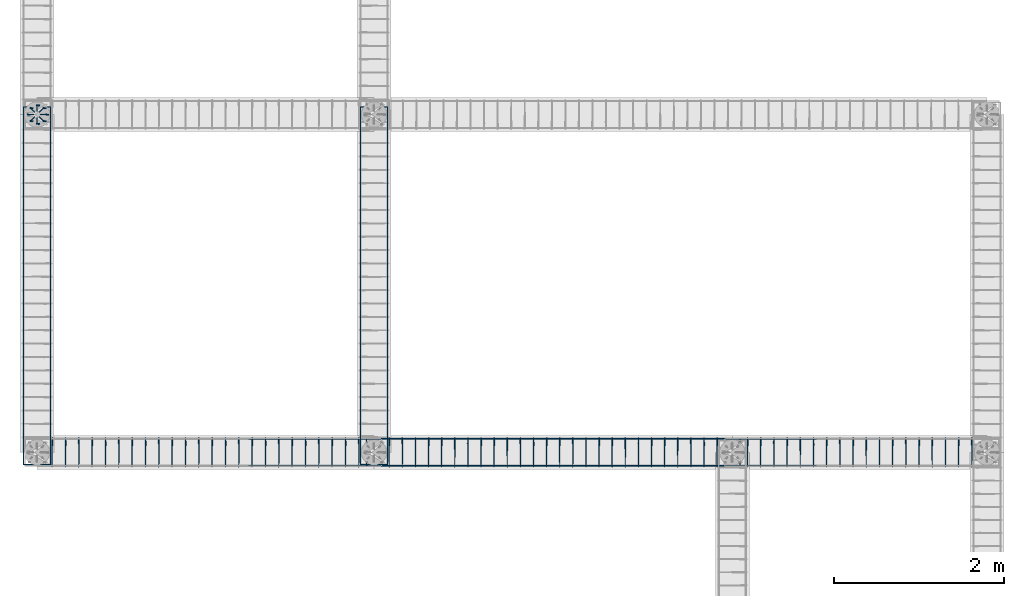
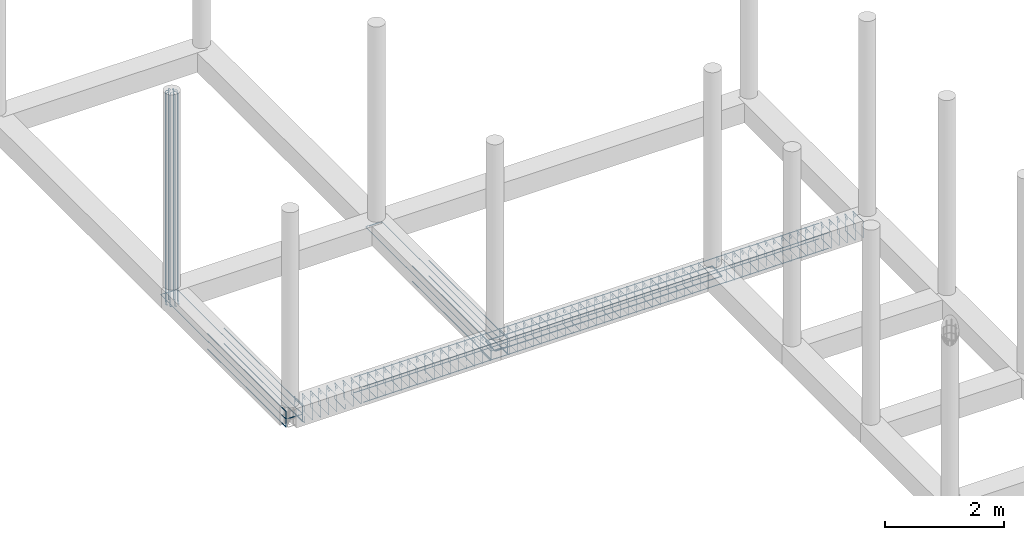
# One storey, part 10 of 20: 10 reinforcing bars.
"""IFC4 building model written with IfcOpenShell, lengths in metres."""

import ifcopenshell
import ifcopenshell.guid

model = None  # the IFC model being written
_history = None  # IfcOwnerHistory: only IFC2X3 demands one
_inside = {}  # id of a spatial element -> (the spatial element, [elements in it])
_under = {}  # id of a project, library or spatial element -> (it, [spatial elements below it])
_declared = {}  # id of a project -> (the project, [libraries it declares])
_typed = {}  # id of a type object -> (the type object, [elements of that type])
_made_of = {}  # id of a material, layer set ... -> (it, [elements and type objects made of it])


def new_model(schema):
    """Start an empty IFC model of exactly this schema.

    Asked for "IFC4X3", IfcOpenShell would pick the latest addendum, in which some entities
    have other attributes; the version numbers below select the first issue.
    IFC2X3 requires an IfcOwnerHistory on every rooted entity: one is made here for all.
    """
    global model, _history
    if schema == "IFC4X3":
        model = ifcopenshell.file(schema_version=(4, 3, 0, 0))
    else:
        model = ifcopenshell.file(schema=schema)
    _inside.clear()
    _under.clear()
    _declared.clear()
    _typed.clear()
    _made_of.clear()
    _history = None
    if model.schema == "IFC2X3":
        org = make("IfcOrganization", Name="unknown")
        user = make(
            "IfcPersonAndOrganization",
            ThePerson=make("IfcPerson", FamilyName="unknown"),
            TheOrganization=org,
        )
        app = make(
            "IfcApplication",
            ApplicationDeveloper=org,
            Version="unknown",
            ApplicationFullName="unknown",
            ApplicationIdentifier="unknown",
        )
        _history = make(
            "IfcOwnerHistory",
            OwningUser=user,
            OwningApplication=app,
            ChangeAction="ADDED",
            CreationDate=0,
        )
    return model


def make(cls, **values):
    """One entity of the class cls with the attributes given. An attribute that is None is left unset."""
    return model.create_entity(
        cls, **{name: value for name, value in values.items() if value is not None}
    )


def entity(cls, *values):
    """Any entity or typed value of the class cls, its attributes in the order of the schema. None: left unset."""
    e = model.create_entity(cls)
    for i, value in enumerate(values):
        if value is not None:
            e[i] = value
    return e


def rooted(cls, **values):
    """An entity with a GlobalId (a new one), such as an element, a storey or a relation."""
    return make(cls, GlobalId=ifcopenshell.guid.new(), OwnerHistory=_history, **values)


def si_unit(unit_type, name, prefix=None):
    """IfcSIUnit, for example si_unit("LENGTHUNIT", "METRE", prefix="MILLI")."""
    return make("IfcSIUnit", UnitType=unit_type, Prefix=prefix, Name=name)


def assignment(units):
    """IfcUnitAssignment: the units of a project."""
    return None if units is None else make("IfcUnitAssignment", Units=units)


def point(xyz):
    """IfcCartesianPoint."""
    return None if xyz is None else make("IfcCartesianPoint", Coordinates=xyz)


def direction(xyz):
    """IfcDirection."""
    return None if xyz is None else make("IfcDirection", DirectionRatios=xyz)


def frame(location, z_axis=None, x_axis=None):
    """IfcAxis2Placement3D, a coordinate frame: its origin and axes. An axis left out is left unset."""
    return make(
        "IfcAxis2Placement3D",
        Location=point(location),
        Axis=direction(z_axis),
        RefDirection=direction(x_axis),
    )


def origin_with_axes():
    """The frame at (0, 0, 0) with the z axis (0, 0, 1) and the x axis (1, 0, 0) written out."""
    return frame((0.0, 0.0, 0.0), z_axis=(0.0, 0.0, 1.0), x_axis=(1.0, 0.0, 0.0))


def place(relative_to, where):
    """IfcLocalPlacement: puts the frame where relative to a parent placement (None: the world)."""
    return make(
        "IfcLocalPlacement", PlacementRelTo=relative_to, RelativePlacement=where
    )


def context(
    kind, dimensions, precision=None, world=None, true_north=None, identifier=None
):
    """IfcGeometricRepresentationContext, for example the 3D "Model" context."""
    return make(
        "IfcGeometricRepresentationContext",
        ContextIdentifier=identifier,
        ContextType=kind,
        CoordinateSpaceDimension=dimensions,
        Precision=precision,
        WorldCoordinateSystem=world,
        TrueNorth=true_north,
    )


def project(units=None, contexts=None):
    """IfcProject with its units and contexts."""
    return rooted(
        "IfcProject",
        Name="project",
        RepresentationContexts=contexts,
        UnitsInContext=assignment(units),
    )


def spatial(cls, under=None, at=None, **own):
    """A site, building, storey or space (cls), placed at a placement, below another one or the project."""
    s = rooted(cls, ObjectPlacement=at, **own)
    if under is not None:
        _under.setdefault(under.id(), (under, []))[1].append(s)
    return s


def shape(context_of_items, identifier, shape_type, items):
    """IfcShapeRepresentation: the items that make up one representation, for example the "Body"."""
    return make(
        "IfcShapeRepresentation",
        ContextOfItems=context_of_items,
        RepresentationIdentifier=identifier,
        RepresentationType=shape_type,
        Items=items,
    )


def source(mapping_origin, context_of_items, identifier, shape_type, items):
    """IfcRepresentationMap: a shape defined once, which mapped items show again and again."""
    return make(
        "IfcRepresentationMap",
        MappingOrigin=mapping_origin,
        MappedRepresentation=shape(context_of_items, identifier, shape_type, items),
    )


def transform(
    local_origin,
    x_axis=None,
    y_axis=None,
    z_axis=None,
    scale=None,
    scale2=None,
    scale3=None,
    uniform=True,
):
    """IfcCartesianTransformationOperator3D, or its non-uniform kind. x_axis, y_axis, z_axis: its Axis1, 2, 3."""
    if uniform:
        return make(
            "IfcCartesianTransformationOperator3D",
            Axis1=direction(x_axis),
            Axis2=direction(y_axis),
            LocalOrigin=point(local_origin),
            Scale=scale,
            Axis3=direction(z_axis),
        )
    return make(
        "IfcCartesianTransformationOperator3DnonUniform",
        Axis1=direction(x_axis),
        Axis2=direction(y_axis),
        LocalOrigin=point(local_origin),
        Scale=scale,
        Axis3=direction(z_axis),
        Scale2=scale2,
        Scale3=scale3,
    )


def mapped(mapping_source, mapping_target):
    """IfcMappedItem: shows the shape of a source again, moved by a transform."""
    return make(
        "IfcMappedItem", MappingSource=mapping_source, MappingTarget=mapping_target
    )


def made_of(thing, what):
    """Note that an element or type object is made of a material, layer set ...; save() writes the relation."""
    if what is not None:
        _made_of.setdefault(what.id(), (what, []))[1].append(thing)
    return thing


def element(
    cls,
    number,
    at=None,
    inside=None,
    cuts=None,
    type_object=None,
    material=None,
    context=None,
    identifier="Body",
    shape_type=None,
    held_by="IfcProductDefinitionShape",
    body=None,
    shapes=None,
    **own,
):
    """One element of the class cls, such as IfcWall. Its Tag is "e" and its number.

    at: its placement. inside: the storey or other place that contains it. cuts: it is an
    opening in that element (IfcRelVoidsElement). A single representation is given by context,
    identifier, shape_type and body (its items); several are given by shapes. held_by: the class
    of the entity that holds the representations. save() writes the other relations.
    """
    e = rooted(cls, Tag="e%d" % number, ObjectPlacement=at, **own)
    if body is not None:
        shapes = [shape(context, identifier, shape_type, body)]
    if shapes is not None:
        e.Representation = make(held_by, Representations=shapes)
    if inside is not None:
        _inside.setdefault(inside.id(), (inside, []))[1].append(e)
    if cuts is not None:
        rooted(
            "IfcRelVoidsElement", RelatingBuildingElement=cuts, RelatedOpeningElement=e
        )
    if type_object is not None:
        _typed.setdefault(type_object.id(), (type_object, []))[1].append(e)
    return made_of(e, material)


def aggregate(whole, parts):
    """IfcRelAggregates: a whole, such as a stair, and the parts it consists of."""
    return rooted("IfcRelAggregates", RelatingObject=whole, RelatedObjects=parts)


def save(model, path):
    """Write the relations noted so far, then the file.

    IfcRelAggregates (storeys below a building ...), IfcRelContainedInSpatialStructure (elements
    in a storey), IfcRelDefinesByType, IfcRelAssociatesMaterial and IfcRelDeclares: one each for
    every whole, place, type object, material and project.
    """
    for whole, parts in _under.values():
        aggregate(whole, parts)
    for where, things in _inside.values():
        rooted(
            "IfcRelContainedInSpatialStructure",
            RelatedElements=things,
            RelatingStructure=where,
        )
    for kind, things in _typed.values():
        rooted("IfcRelDefinesByType", RelatedObjects=things, RelatingType=kind)
    for what, things in _made_of.values():
        rooted("IfcRelAssociatesMaterial", RelatedObjects=things, RelatingMaterial=what)
    for by, libraries in _declared.values():
        rooted("IfcRelDeclares", RelatingContext=by, RelatedDefinitions=libraries)
    model.write(path)


model = new_model("IFC4")

# Units and contexts
model_context = context("Model", 3, precision=1e-05, world=origin_with_axes())
ifc_project = project(units=[si_unit("LENGTHUNIT", "METRE"), si_unit("AREAUNIT", "SQUARE_METRE"), si_unit("VOLUMEUNIT", "CUBIC_METRE"), si_unit("MASSUNIT", "GRAM", prefix="KILO"), si_unit("TIMEUNIT", "SECOND"), si_unit("PLANEANGLEUNIT", "RADIAN"), si_unit("SOLIDANGLEUNIT", "STERADIAN"), si_unit("THERMODYNAMICTEMPERATUREUNIT", "DEGREE_CELSIUS")], contexts=[model_context])

# Site, building, storey
placement_1 = place(None, origin_with_axes())
site = spatial("IfcSite", under=ifc_project, at=placement_1, Name="Italia", CompositionType="ELEMENT")
building = spatial("IfcBuilding", under=site, at=placement_1, Name="Tettoia", CompositionType="ELEMENT")
storey = spatial("IfcBuildingStorey", under=building, at=placement_1, Name="Storey 0", CompositionType="ELEMENT", Elevation=0.0)

# Reinforcing bars
shared_shape_1 = source(origin_with_axes(), model_context, "Body", "AdvancedSweptSolid", [
    entity("IfcSweptDiskSolid", entity("IfcIndexedPolyCurve", entity("IfcCartesianPointList3D", [[0.0210233, 13.946, -0.375], [0.00714296, 13.9479, -0.375], [0.000965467, 13.9487, -0.373761], [-0.00427156, 13.9494, -0.370231], [-0.00777084, 13.9498, -0.364949], [-0.00899962, 13.95, -0.358718], [-0.00899962, 13.95, 0.5725]]), [entity("IfcLineIndex", [1, 2]), entity("IfcLineIndex", [2, 3]), entity("IfcLineIndex", [3, 4]), entity("IfcLineIndex", [4, 5]), entity("IfcLineIndex", [5, 6]), entity("IfcLineIndex", [6, 7])], False), 0.007),
])
placement_2 = place(placement_1, origin_with_axes())
reinforcing_bar_1_placement = place(placement_2, origin_with_axes())
element("IfcReinforcingBar", 1, at=reinforcing_bar_1_placement, inside=storey, BarLength=0.97063, CrossSectionArea=0.00015394, NominalDiameter=0.014, context=model_context, shape_type="MappedRepresentation", body=[
    mapped(shared_shape_1, transform((0.186059, -0.0770741, 0.0), x_axis=(1.0, 0.0, 0.0), y_axis=(0.0, 1.0, 0.0), z_axis=(0.0, 0.0, 1.0), scale=1.0)),
    mapped(shared_shape_1, transform((0.0319103, -0.0770741, 0.0), x_axis=(1.0, 0.0, 0.0), y_axis=(0.0, 1.0, 0.0), z_axis=(0.0, 0.0, 1.0), scale=1.0)),
    mapped(shared_shape_1, transform((0.108985, -0.108999, 0.0), x_axis=(1.0, 0.0, 0.0), y_axis=(0.0, 1.0, 0.0), z_axis=(0.0, 0.0, 1.0), scale=1.0)),
    mapped(shared_shape_1, transform((0.217986, 0.0, 0.0), x_axis=(1.0, 0.0, 0.0), y_axis=(0.0, 1.0, 0.0), z_axis=(0.0, 0.0, 1.0), scale=1.0)),
    mapped(shared_shape_1, transform((0.0319171, 0.077075, -1.40667e-05), x_axis=(1.0, 0.0, 0.0), y_axis=(0.0, 1.0, 0.0), z_axis=(0.0, 0.0, 1.0), scale=1.0)),
    mapped(shared_shape_1, transform((0.0, 0.0, 0.0), x_axis=(1.0, 0.0, 0.0), y_axis=(0.0, 1.0, 0.0), z_axis=(0.0, 0.0, 1.0), scale=1.0)),
    mapped(shared_shape_1, transform((0.186065, 0.077075, -1.40965e-05), x_axis=(1.0, 0.0, 0.0), y_axis=(0.0, 1.0, 0.0), z_axis=(0.0, 0.0, 1.0), scale=1.0)),
    mapped(shared_shape_1, transform((0.109008, 0.108999, -1.35601e-05), x_axis=(1.0, 0.0, 0.0), y_axis=(0.0, 1.0, 0.0), z_axis=(0.0, 0.0, 1.0), scale=1.0)),
])
shared_shape_2 = source(origin_with_axes(), model_context, "Body", "AdvancedSweptSolid", [
    entity("IfcSweptDiskSolid", entity("IfcIndexedPolyCurve", entity("IfcCartesianPointList3D", [[-0.00899962, 13.95, 0.0], [-0.00899962, 13.95, 3.94], [-0.0063354, 13.95, 3.95339], [0.00125165, 13.95, 3.96475], [0.0126065, 13.95, 3.97234], [0.0260004, 13.95, 3.975], [0.0660004, 13.95, 3.975]]), [entity("IfcLineIndex", [1, 2]), entity("IfcLineIndex", [2, 3]), entity("IfcLineIndex", [3, 4]), entity("IfcLineIndex", [4, 5]), entity("IfcLineIndex", [5, 6]), entity("IfcLineIndex", [6, 7])], False), 0.007),
])
reinforcing_bar_2_placement = place(placement_2, origin_with_axes())
element("IfcReinforcingBar", 2, at=reinforcing_bar_2_placement, inside=storey, BarLength=4.03463, CrossSectionArea=0.00015394, NominalDiameter=0.014, context=model_context, shape_type="MappedRepresentation", body=[
    mapped(shared_shape_2, transform((10.0348, 23.7434, 0.0), x_axis=(-0.707108, 0.707106, 0.0), y_axis=(-0.707106, -0.707108, 0.0), z_axis=(0.0, 0.0, 1.0), scale=1.0)),
    mapped(shared_shape_2, transform((0.2, 27.9, 0.0), x_axis=(-1.0, 0.0, 0.0), y_axis=(0.0, -1.0, 0.0), z_axis=(0.0, 0.0, 1.0), scale=1.0)),
    mapped(shared_shape_2, transform((9.89341, 4.01514, 0.0), x_axis=(0.707108, 0.707106, 0.0), y_axis=(-0.707106, 0.707108, 0.0), z_axis=(0.0, 0.0, 1.0), scale=1.0)),
    mapped(shared_shape_2, transform((14.05, 13.85, 0.0), x_axis=(0.0, 1.0, 0.0), y_axis=(-1.0, 0.0, 0.0), z_axis=(0.0, 0.0, 1.0), scale=1.0)),
    mapped(shared_shape_2, transform((-9.83484, 4.15656, 0.0), x_axis=(0.707108, -0.707106, 0.0), y_axis=(0.707106, 0.707108, 0.0), z_axis=(0.0, 0.0, 1.0), scale=1.0)),
    mapped(shared_shape_2, transform((0.0, 0.0, 0.0), x_axis=(1.0, 0.0, 0.0), y_axis=(0.0, 1.0, 0.0), z_axis=(0.0, 0.0, 1.0), scale=1.0)),
    mapped(shared_shape_2, transform((-9.69342, 23.8849, 0.0), x_axis=(-0.707108, -0.707106, 0.0), y_axis=(0.707106, -0.707108, 0.0), z_axis=(0.0, 0.0, 1.0), scale=1.0)),
    mapped(shared_shape_2, transform((-13.85, 14.05, 0.0), x_axis=(0.0, -1.0, 0.0), y_axis=(1.0, 0.0, 0.0), z_axis=(0.0, 0.0, 1.0), scale=1.0)),
])
shared_shape_3 = source(origin_with_axes(), model_context, "Body", "AdvancedSweptSolid", [
    entity("IfcSweptDiskSolid", entity("IfcIndexedPolyCurve", entity("IfcCartesianPointList3D", [[0.275, 10.0703, -0.120711], [0.275556, 10.1381, -0.0529289], [0.2756, 10.141, -0.0458579], [0.27564, 10.141, -0.039], [0.275663, 10.1402, -0.0351732], [0.275685, 10.1381, -0.0319289], [0.275708, 10.1348, -0.0297612], [0.27573, 10.131, -0.029], [0.277597, 9.809, -0.029], [0.27762, 9.80517, -0.0297612], [0.277643, 9.80193, -0.0319289], [0.277665, 9.79976, -0.0351732], [0.277688, 9.799, -0.039], [0.279555, 9.799, -0.361], [0.279577, 9.79976, -0.364827], [0.2796, 9.80193, -0.368071], [0.279623, 9.80517, -0.370239], [0.279645, 9.809, -0.371], [0.281512, 10.131, -0.371], [0.281535, 10.1348, -0.370239], [0.281558, 10.1381, -0.368071], [0.28158, 10.1402, -0.364827], [0.281603, 10.141, -0.361], [0.28347, 10.141, -0.039], [0.283493, 10.1402, -0.0351732], [0.283515, 10.1381, -0.0319289], [0.283538, 10.1348, -0.0297612], [0.283561, 10.131, -0.029], [0.2836, 10.1241, -0.029], [0.283645, 10.1171, -0.0319289], [0.2842, 10.0493, -0.0997114]]), [entity("IfcLineIndex", [1, 2]), entity("IfcLineIndex", [2, 3]), entity("IfcLineIndex", [3, 4]), entity("IfcLineIndex", [4, 5]), entity("IfcLineIndex", [5, 6]), entity("IfcLineIndex", [6, 7]), entity("IfcLineIndex", [7, 8]), entity("IfcLineIndex", [8, 9]), entity("IfcLineIndex", [9, 10]), entity("IfcLineIndex", [10, 11]), entity("IfcLineIndex", [11, 12]), entity("IfcLineIndex", [12, 13]), entity("IfcLineIndex", [13, 14]), entity("IfcLineIndex", [14, 15]), entity("IfcLineIndex", [15, 16]), entity("IfcLineIndex", [16, 17]), entity("IfcLineIndex", [17, 18]), entity("IfcLineIndex", [18, 19]), entity("IfcLineIndex", [19, 20]), entity("IfcLineIndex", [20, 21]), entity("IfcLineIndex", [21, 22]), entity("IfcLineIndex", [22, 23]), entity("IfcLineIndex", [23, 24]), entity("IfcLineIndex", [24, 25]), entity("IfcLineIndex", [25, 26]), entity("IfcLineIndex", [26, 27]), entity("IfcLineIndex", [27, 28]), entity("IfcLineIndex", [28, 29]), entity("IfcLineIndex", [29, 30]), entity("IfcLineIndex", [30, 31])], False), 0.004),
])
reinforcing_bar_3_placement = place(placement_2, origin_with_axes())
element("IfcReinforcingBar", 3, at=reinforcing_bar_3_placement, inside=storey, BarLength=1.5868, CrossSectionArea=5.0265e-05, NominalDiameter=0.008, context=model_context, shape_type="MappedRepresentation", body=[
    mapped(shared_shape_3, transform((2.82678, 0.0, 0.0), x_axis=(1.0, 0.0, 0.0), y_axis=(0.0, 1.0, 0.0), z_axis=(0.0, 0.0, 1.0), scale=1.0)),
    mapped(shared_shape_3, transform((2.66974, 0.0, 0.0), x_axis=(1.0, 0.0, 0.0), y_axis=(0.0, 1.0, 0.0), z_axis=(0.0, 0.0, 1.0), scale=1.0)),
    mapped(shared_shape_3, transform((3.14087, 0.0, 0.0), x_axis=(1.0, 0.0, 0.0), y_axis=(0.0, 1.0, 0.0), z_axis=(0.0, 0.0, 1.0), scale=1.0)),
    mapped(shared_shape_3, transform((2.98383, 0.0, 0.0), x_axis=(1.0, 0.0, 0.0), y_axis=(0.0, 1.0, 0.0), z_axis=(0.0, 0.0, 1.0), scale=1.0)),
    mapped(shared_shape_3, transform((3.45496, 0.0, 0.0), x_axis=(1.0, 0.0, 0.0), y_axis=(0.0, 1.0, 0.0), z_axis=(0.0, 0.0, 1.0), scale=1.0)),
    mapped(shared_shape_3, transform((3.29791, 0.0, 0.0), x_axis=(1.0, 0.0, 0.0), y_axis=(0.0, 1.0, 0.0), z_axis=(0.0, 0.0, 1.0), scale=1.0)),
    mapped(shared_shape_3, transform((3.96994, 0.0, 0.0), x_axis=(1.0, 0.0, 0.0), y_axis=(0.0, 1.0, 0.0), z_axis=(0.0, 0.0, 1.0), scale=1.0)),
    mapped(shared_shape_3, transform((3.612, 0.0, 0.0), x_axis=(1.0, 0.0, 0.0), y_axis=(0.0, 1.0, 0.0), z_axis=(0.0, 0.0, 1.0), scale=1.0)),
    mapped(shared_shape_3, transform((4.2789, 0.0, 0.0), x_axis=(1.0, 0.0, 0.0), y_axis=(0.0, 1.0, 0.0), z_axis=(0.0, 0.0, 1.0), scale=1.0)),
    mapped(shared_shape_3, transform((4.12442, 0.0, 0.0), x_axis=(1.0, 0.0, 0.0), y_axis=(0.0, 1.0, 0.0), z_axis=(0.0, 0.0, 1.0), scale=1.0)),
    mapped(shared_shape_3, transform((4.58786, 0.0, 0.0), x_axis=(1.0, 0.0, 0.0), y_axis=(0.0, 1.0, 0.0), z_axis=(0.0, 0.0, 1.0), scale=1.0)),
    mapped(shared_shape_3, transform((4.43338, 0.0, 0.0), x_axis=(1.0, 0.0, 0.0), y_axis=(0.0, 1.0, 0.0), z_axis=(0.0, 0.0, 1.0), scale=1.0)),
    mapped(shared_shape_3, transform((4.89682, 0.0, 0.0), x_axis=(1.0, 0.0, 0.0), y_axis=(0.0, 1.0, 0.0), z_axis=(0.0, 0.0, 1.0), scale=1.0)),
    mapped(shared_shape_3, transform((4.74234, 0.0, 0.0), x_axis=(1.0, 0.0, 0.0), y_axis=(0.0, 1.0, 0.0), z_axis=(0.0, 0.0, 1.0), scale=1.0)),
    mapped(shared_shape_3, transform((5.20578, 0.0, 0.0), x_axis=(1.0, 0.0, 0.0), y_axis=(0.0, 1.0, 0.0), z_axis=(0.0, 0.0, 1.0), scale=1.0)),
    mapped(shared_shape_3, transform((5.0513, 0.0, 0.0), x_axis=(1.0, 0.0, 0.0), y_axis=(0.0, 1.0, 0.0), z_axis=(0.0, 0.0, 1.0), scale=1.0)),
    mapped(shared_shape_3, transform((0.0, 0.0, 0.0), x_axis=(1.0, 0.0, 0.0), y_axis=(0.0, 1.0, 0.0), z_axis=(0.0, 0.0, 1.0), scale=1.0)),
    mapped(shared_shape_3, transform((5.36026, 0.0, 0.0), x_axis=(1.0, 0.0, 0.0), y_axis=(0.0, 1.0, 0.0), z_axis=(0.0, 0.0, 1.0), scale=1.0)),
    mapped(shared_shape_3, transform((0.314087, 0.0, 0.0), x_axis=(1.0, 0.0, 0.0), y_axis=(0.0, 1.0, 0.0), z_axis=(0.0, 0.0, 1.0), scale=1.0)),
    mapped(shared_shape_3, transform((0.157043, 0.0, 0.0), x_axis=(1.0, 0.0, 0.0), y_axis=(0.0, 1.0, 0.0), z_axis=(0.0, 0.0, 1.0), scale=1.0)),
    mapped(shared_shape_3, transform((0.628113, 0.0, 0.0), x_axis=(1.0, 0.0, 0.0), y_axis=(0.0, 1.0, 0.0), z_axis=(0.0, 0.0, 1.0), scale=1.0)),
    mapped(shared_shape_3, transform((0.47113, 0.0, 0.0), x_axis=(1.0, 0.0, 0.0), y_axis=(0.0, 1.0, 0.0), z_axis=(0.0, 0.0, 1.0), scale=1.0)),
    mapped(shared_shape_3, transform((0.942261, 0.0, 0.0), x_axis=(1.0, 0.0, 0.0), y_axis=(0.0, 1.0, 0.0), z_axis=(0.0, 0.0, 1.0), scale=1.0)),
    mapped(shared_shape_3, transform((0.785156, 0.0, 0.0), x_axis=(1.0, 0.0, 0.0), y_axis=(0.0, 1.0, 0.0), z_axis=(0.0, 0.0, 1.0), scale=1.0)),
    mapped(shared_shape_3, transform((1.25635, 0.0, 0.0), x_axis=(1.0, 0.0, 0.0), y_axis=(0.0, 1.0, 0.0), z_axis=(0.0, 0.0, 1.0), scale=1.0)),
    mapped(shared_shape_3, transform((1.0993, 0.0, 0.0), x_axis=(1.0, 0.0, 0.0), y_axis=(0.0, 1.0, 0.0), z_axis=(0.0, 0.0, 1.0), scale=1.0)),
    mapped(shared_shape_3, transform((1.57043, 0.0, 0.0), x_axis=(1.0, 0.0, 0.0), y_axis=(0.0, 1.0, 0.0), z_axis=(0.0, 0.0, 1.0), scale=1.0)),
    mapped(shared_shape_3, transform((1.41339, 0.0, 0.0), x_axis=(1.0, 0.0, 0.0), y_axis=(0.0, 1.0, 0.0), z_axis=(0.0, 0.0, 1.0), scale=1.0)),
    mapped(shared_shape_3, transform((1.88452, 0.0, 0.0), x_axis=(1.0, 0.0, 0.0), y_axis=(0.0, 1.0, 0.0), z_axis=(0.0, 0.0, 1.0), scale=1.0)),
    mapped(shared_shape_3, transform((1.72748, 0.0, 0.0), x_axis=(1.0, 0.0, 0.0), y_axis=(0.0, 1.0, 0.0), z_axis=(0.0, 0.0, 1.0), scale=1.0)),
    mapped(shared_shape_3, transform((2.19861, 0.0, 0.0), x_axis=(1.0, 0.0, 0.0), y_axis=(0.0, 1.0, 0.0), z_axis=(0.0, 0.0, 1.0), scale=1.0)),
    mapped(shared_shape_3, transform((2.04157, 0.0, 0.0), x_axis=(1.0, 0.0, 0.0), y_axis=(0.0, 1.0, 0.0), z_axis=(0.0, 0.0, 1.0), scale=1.0)),
    mapped(shared_shape_3, transform((2.5127, 0.0, 0.0), x_axis=(1.0, 0.0, 0.0), y_axis=(0.0, 1.0, 0.0), z_axis=(0.0, 0.0, 1.0), scale=1.0)),
    mapped(shared_shape_3, transform((2.35565, 0.0, 0.0), x_axis=(1.0, 0.0, 0.0), y_axis=(0.0, 1.0, 0.0), z_axis=(0.0, 0.0, 1.0), scale=1.0)),
    mapped(shared_shape_3, transform((8.50218, -3.52859e-05, 2.28584e-05), x_axis=(1.0, 0.000133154, -0.000122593), y_axis=(-0.000133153, 1.0, 0.0), z_axis=(0.000122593, 0.0, 1.0), scale=1.0)),
    mapped(shared_shape_3, transform((8.34677, -3.52859e-05, 2.28584e-05), x_axis=(1.0, 0.000133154, -0.000122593), y_axis=(-0.000133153, 1.0, 0.0), z_axis=(0.000122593, 0.0, 1.0), scale=1.0)),
    mapped(shared_shape_3, transform((8.813, -3.52859e-05, 2.28584e-05), x_axis=(1.0, 0.000133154, -0.000122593), y_axis=(-0.000133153, 1.0, 0.0), z_axis=(0.000122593, 0.0, 1.0), scale=1.0)),
    mapped(shared_shape_3, transform((8.65759, -3.52859e-05, 2.28584e-05), x_axis=(1.0, 0.000133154, -0.000122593), y_axis=(-0.000133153, 1.0, 0.0), z_axis=(0.000122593, 0.0, 1.0), scale=1.0)),
    mapped(shared_shape_3, transform((9.12383, -3.52859e-05, 2.28584e-05), x_axis=(1.0, 0.000133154, -0.000122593), y_axis=(-0.000133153, 1.0, 0.0), z_axis=(0.000122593, 0.0, 1.0), scale=1.0)),
    mapped(shared_shape_3, transform((8.96841, -3.52859e-05, 2.28584e-05), x_axis=(1.0, 0.000133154, -0.000122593), y_axis=(-0.000133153, 1.0, 0.0), z_axis=(0.000122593, 0.0, 1.0), scale=1.0)),
    mapped(shared_shape_3, transform((9.43465, -3.52859e-05, 2.28584e-05), x_axis=(1.0, 0.000133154, -0.000122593), y_axis=(-0.000133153, 1.0, 0.0), z_axis=(0.000122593, 0.0, 1.0), scale=1.0)),
    mapped(shared_shape_3, transform((9.27924, -3.52859e-05, 2.28584e-05), x_axis=(1.0, 0.000133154, -0.000122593), y_axis=(-0.000133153, 1.0, 0.0), z_axis=(0.000122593, 0.0, 1.0), scale=1.0)),
    mapped(shared_shape_3, transform((9.74547, -3.52859e-05, 2.28584e-05), x_axis=(1.0, 0.000133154, -0.000122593), y_axis=(-0.000133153, 1.0, 0.0), z_axis=(0.000122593, 0.0, 1.0), scale=1.0)),
    mapped(shared_shape_3, transform((9.59006, -3.52859e-05, 2.28584e-05), x_axis=(1.0, 0.000133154, -0.000122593), y_axis=(-0.000133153, 1.0, 0.0), z_axis=(0.000122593, 0.0, 1.0), scale=1.0)),
    mapped(shared_shape_3, transform((10.0563, -3.52859e-05, 2.28584e-05), x_axis=(1.0, 0.000133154, -0.000122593), y_axis=(-0.000133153, 1.0, 0.0), z_axis=(0.000122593, 0.0, 1.0), scale=1.0)),
    mapped(shared_shape_3, transform((9.90089, -3.52859e-05, 2.28584e-05), x_axis=(1.0, 0.000133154, -0.000122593), y_axis=(-0.000133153, 1.0, 0.0), z_axis=(0.000122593, 0.0, 1.0), scale=1.0)),
    mapped(shared_shape_3, transform((10.3671, -3.52859e-05, 2.28584e-05), x_axis=(1.0, 0.000133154, -0.000122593), y_axis=(-0.000133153, 1.0, 0.0), z_axis=(0.000122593, 0.0, 1.0), scale=1.0)),
    mapped(shared_shape_3, transform((10.2117, -3.52859e-05, 2.28584e-05), x_axis=(1.0, 0.000133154, -0.000122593), y_axis=(-0.000133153, 1.0, 0.0), z_axis=(0.000122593, 0.0, 1.0), scale=1.0)),
    mapped(shared_shape_3, transform((10.6779, -3.52859e-05, 2.28584e-05), x_axis=(1.0, 0.000133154, -0.000122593), y_axis=(-0.000133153, 1.0, 0.0), z_axis=(0.000122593, 0.0, 1.0), scale=1.0)),
    mapped(shared_shape_3, transform((10.5225, -3.52859e-05, 2.28584e-05), x_axis=(1.0, 0.000133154, -0.000122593), y_axis=(-0.000133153, 1.0, 0.0), z_axis=(0.000122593, 0.0, 1.0), scale=1.0)),
    mapped(shared_shape_3, transform((5.51474, 0.0, 0.0), x_axis=(1.0, 0.0, 0.0), y_axis=(0.0, 1.0, 0.0), z_axis=(0.0, 0.0, 1.0), scale=1.0)),
    mapped(shared_shape_3, transform((10.8334, -3.52859e-05, 2.28584e-05), x_axis=(1.0, 0.000133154, -0.000122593), y_axis=(-0.000133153, 1.0, 0.0), z_axis=(0.000122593, 0.0, 1.0), scale=1.0)),
    mapped(shared_shape_3, transform((5.8237, 0.0, 0.0), x_axis=(1.0, 0.0, 0.0), y_axis=(0.0, 1.0, 0.0), z_axis=(0.0, 0.0, 1.0), scale=1.0)),
    mapped(shared_shape_3, transform((5.66922, 0.0, 0.0), x_axis=(1.0, 0.0, 0.0), y_axis=(0.0, 1.0, 0.0), z_axis=(0.0, 0.0, 1.0), scale=1.0)),
    mapped(shared_shape_3, transform((6.13266, 0.0, 0.0), x_axis=(1.0, 0.0, 0.0), y_axis=(0.0, 1.0, 0.0), z_axis=(0.0, 0.0, 1.0), scale=1.0)),
    mapped(shared_shape_3, transform((5.97818, 0.0, 0.0), x_axis=(1.0, 0.0, 0.0), y_axis=(0.0, 1.0, 0.0), z_axis=(0.0, 0.0, 1.0), scale=1.0)),
    mapped(shared_shape_3, transform((6.44162, 0.0, 0.0), x_axis=(1.0, 0.0, 0.0), y_axis=(0.0, 1.0, 0.0), z_axis=(0.0, 0.0, 1.0), scale=1.0)),
    mapped(shared_shape_3, transform((6.28714, 0.0, 0.0), x_axis=(1.0, 0.0, 0.0), y_axis=(0.0, 1.0, 0.0), z_axis=(0.0, 0.0, 1.0), scale=1.0)),
    mapped(shared_shape_3, transform((6.75058, 0.0, 0.0), x_axis=(1.0, 0.0, 0.0), y_axis=(0.0, 1.0, 0.0), z_axis=(0.0, 0.0, 1.0), scale=1.0)),
    mapped(shared_shape_3, transform((6.5961, 0.0, 0.0), x_axis=(1.0, 0.0, 0.0), y_axis=(0.0, 1.0, 0.0), z_axis=(0.0, 0.0, 1.0), scale=1.0)),
    mapped(shared_shape_3, transform((7.05954, 0.0, 0.0), x_axis=(1.0, 0.0, 0.0), y_axis=(0.0, 1.0, 0.0), z_axis=(0.0, 0.0, 1.0), scale=1.0)),
    mapped(shared_shape_3, transform((6.90506, 0.0, 0.0), x_axis=(1.0, 0.0, 0.0), y_axis=(0.0, 1.0, 0.0), z_axis=(0.0, 0.0, 1.0), scale=1.0)),
    mapped(shared_shape_3, transform((7.3685, 0.0, 0.0), x_axis=(1.0, 0.0, 0.0), y_axis=(0.0, 1.0, 0.0), z_axis=(0.0, 0.0, 1.0), scale=1.0)),
    mapped(shared_shape_3, transform((7.21402, 0.0, 0.0), x_axis=(1.0, 0.0, 0.0), y_axis=(0.0, 1.0, 0.0), z_axis=(0.0, 0.0, 1.0), scale=1.0)),
    mapped(shared_shape_3, transform((7.67746, 0.0, 0.0), x_axis=(1.0, 0.0, 0.0), y_axis=(0.0, 1.0, 0.0), z_axis=(0.0, 0.0, 1.0), scale=1.0)),
    mapped(shared_shape_3, transform((7.52298, 0.0, 0.0), x_axis=(1.0, 0.0, 0.0), y_axis=(0.0, 1.0, 0.0), z_axis=(0.0, 0.0, 1.0), scale=1.0)),
    mapped(shared_shape_3, transform((8.19136, -3.52859e-05, 2.28584e-05), x_axis=(1.0, 0.000133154, -0.000122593), y_axis=(-0.000133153, 1.0, 0.0), z_axis=(0.000122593, 0.0, 1.0), scale=1.0)),
    mapped(shared_shape_3, transform((7.83336, -3.52859e-05, 2.28584e-05), x_axis=(1.0, 0.000133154, -0.000122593), y_axis=(-0.000133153, 1.0, 0.0), z_axis=(0.000122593, 0.0, 1.0), scale=1.0)),
])
shared_shape_4 = source(origin_with_axes(), model_context, "Body", "AdvancedSweptSolid", [
    entity("IfcSweptDiskSolid", entity("IfcIndexedPolyCurve", entity("IfcCartesianPointList3D", [[3.98, 9.881, -0.194], [3.98, 10.121, -0.194], [3.98076, 10.1248, -0.194], [3.98293, 10.1281, -0.194], [3.98617, 10.1302, -0.194], [3.99, 10.131, -0.194], [8.37, 10.131, -0.194], [8.37383, 10.1302, -0.194], [8.37707, 10.1281, -0.194], [8.37924, 10.1248, -0.194], [8.38, 10.121, -0.194], [8.38, 9.881, -0.194]]), [entity("IfcLineIndex", [1, 2]), entity("IfcLineIndex", [2, 3]), entity("IfcLineIndex", [3, 4]), entity("IfcLineIndex", [4, 5]), entity("IfcLineIndex", [5, 6]), entity("IfcLineIndex", [6, 7]), entity("IfcLineIndex", [7, 8]), entity("IfcLineIndex", [8, 9]), entity("IfcLineIndex", [9, 10]), entity("IfcLineIndex", [10, 11]), entity("IfcLineIndex", [11, 12])], False), 0.006),
])
reinforcing_bar_4_placement = place(placement_2, origin_with_axes())
element("IfcReinforcingBar", 4, at=reinforcing_bar_4_placement, inside=storey, BarLength=4.89121, CrossSectionArea=0.0001131, NominalDiameter=0.012, context=model_context, shape_type="MappedRepresentation", body=[
    mapped(shared_shape_4, transform((0.0, 19.94, -0.4), x_axis=(1.0, 0.0, 0.0), y_axis=(0.0, -1.0, 0.0), z_axis=(0.0, 0.0, -1.0), scale=1.0)),
    mapped(shared_shape_4, transform((0.0, 0.0, 0.0), x_axis=(1.0, 0.0, 0.0), y_axis=(0.0, 1.0, 0.0), z_axis=(0.0, 0.0, 1.0), scale=1.0)),
])
shared_shape_5 = source(origin_with_axes(), model_context, "Body", "AdvancedSweptSolid", [
    entity("IfcSweptDiskSolid", entity("IfcIndexedPolyCurve", entity("IfcCartesianPointList3D", [[5.59727, 9.811, -0.359], [6.18, 9.811, -0.359], [9.865, 9.811, -0.359], [10.4477, 9.811, -0.359]]), [entity("IfcLineIndex", [1, 2]), entity("IfcLineIndex", [2, 3]), entity("IfcLineIndex", [3, 4])], False), 0.008),
])
reinforcing_bar_5_placement = place(placement_2, origin_with_axes())
element("IfcReinforcingBar", 5, at=reinforcing_bar_5_placement, inside=storey, BarLength=4.85045, CrossSectionArea=0.00020106, NominalDiameter=0.016, context=model_context, shape_type="MappedRepresentation", body=[
    mapped(shared_shape_5, transform((0.0, 0.318, 0.0), x_axis=(1.0, 0.0, 0.0), y_axis=(0.0, 1.0, 0.0), z_axis=(0.0, 0.0, 1.0), scale=1.0)),
    mapped(shared_shape_5, transform((0.0, 0.0, 0.0), x_axis=(1.0, 0.0, 0.0), y_axis=(0.0, 1.0, 0.0), z_axis=(0.0, 0.0, 1.0), scale=1.0)),
    mapped(shared_shape_5, transform((0.0, 0.318, 0.318), x_axis=(1.0, 0.0, 0.0), y_axis=(0.0, 1.0, 0.0), z_axis=(0.0, 0.0, 1.0), scale=1.0)),
    mapped(shared_shape_5, transform((0.0, 0.0, 0.318), x_axis=(1.0, 0.0, 0.0), y_axis=(0.0, 1.0, 0.0), z_axis=(0.0, 0.0, 1.0), scale=1.0)),
])
shared_shape_6 = source(origin_with_axes(), model_context, "Body", "AdvancedSweptSolid", [
    entity("IfcSweptDiskSolid", entity("IfcIndexedPolyCurve", entity("IfcCartesianPointList3D", [[1.42727, 9.811, -0.359], [2.01, 9.811, -0.359], [6.18, 9.811, -0.359], [6.76273, 9.811, -0.359]]), [entity("IfcLineIndex", [1, 2]), entity("IfcLineIndex", [2, 3]), entity("IfcLineIndex", [3, 4])], False), 0.008),
])
reinforcing_bar_6_placement = place(placement_2, origin_with_axes())
element("IfcReinforcingBar", 6, at=reinforcing_bar_6_placement, inside=storey, BarLength=5.33546, CrossSectionArea=0.00020106, NominalDiameter=0.016, context=model_context, shape_type="MappedRepresentation", body=[
    mapped(shared_shape_6, transform((0.0, 0.318001, 0.0), x_axis=(1.0, 0.0, 0.0), y_axis=(0.0, 1.0, 0.0), z_axis=(0.0, 0.0, 1.0), scale=1.0)),
    mapped(shared_shape_6, transform((0.0, 0.0, 0.0), x_axis=(1.0, 0.0, 0.0), y_axis=(0.0, 1.0, 0.0), z_axis=(0.0, 0.0, 1.0), scale=1.0)),
    mapped(shared_shape_6, transform((0.0, 0.318001, 0.318), x_axis=(1.0, 0.0, 0.0), y_axis=(0.0, 1.0, 0.0), z_axis=(0.0, 0.0, 1.0), scale=1.0)),
    mapped(shared_shape_6, transform((0.0, 0.0, 0.318), x_axis=(1.0, 0.0, 0.0), y_axis=(0.0, 1.0, 0.0), z_axis=(0.0, 0.0, 1.0), scale=1.0)),
])
shared_shape_7 = source(origin_with_axes(), model_context, "Body", "AdvancedSweptSolid", [
    entity("IfcSweptDiskSolid", entity("IfcIndexedPolyCurve", entity("IfcCartesianPointList3D", [[0.189, 9.83, -0.194], [-0.051, 9.83, -0.194], [-0.0548268, 9.83076, -0.194], [-0.0580711, 9.83293, -0.194], [-0.0602388, 9.83617, -0.194], [-0.061, 9.84, -0.194], [-0.061, 14.03, -0.194], [-0.0602388, 14.0338, -0.194], [-0.0580711, 14.0371, -0.194], [-0.0548268, 14.0392, -0.194], [-0.051, 14.04, -0.194], [0.189, 14.04, -0.194]]), [entity("IfcLineIndex", [1, 2]), entity("IfcLineIndex", [2, 3]), entity("IfcLineIndex", [3, 4]), entity("IfcLineIndex", [4, 5]), entity("IfcLineIndex", [5, 6]), entity("IfcLineIndex", [6, 7]), entity("IfcLineIndex", [7, 8]), entity("IfcLineIndex", [8, 9]), entity("IfcLineIndex", [9, 10]), entity("IfcLineIndex", [10, 11]), entity("IfcLineIndex", [11, 12])], False), 0.006),
])
reinforcing_bar_7_placement = place(placement_2, origin_with_axes())
element("IfcReinforcingBar", 7, at=reinforcing_bar_7_placement, inside=storey, BarLength=4.70121, CrossSectionArea=0.0001131, NominalDiameter=0.012, context=model_context, shape_type="MappedRepresentation", body=[
    mapped(shared_shape_7, transform((0.2, 0.0, -0.4), x_axis=(-1.0, 0.0, 0.0), y_axis=(0.0, 1.0, 0.0), z_axis=(0.0, 0.0, -1.0), scale=1.0)),
    mapped(shared_shape_7, transform((0.0, 0.0, 0.0), x_axis=(1.0, 0.0, 0.0), y_axis=(0.0, 1.0, 0.0), z_axis=(0.0, 0.0, 1.0), scale=1.0)),
])
shared_shape_8 = source(origin_with_axes(), model_context, "Body", "AdvancedSweptSolid", [
    entity("IfcSweptDiskSolid", entity("IfcIndexedPolyCurve", entity("IfcCartesianPointList3D", [[0.259, 9.83, -0.109], [0.259, 9.83, -0.349], [0.259, 9.83076, -0.352827], [0.259, 9.83293, -0.356071], [0.259, 9.83617, -0.358239], [0.259, 9.84, -0.359], [0.259, 9.97, -0.359], [0.259, 11.885, -0.359], [0.259, 12.4677, -0.359]]), [entity("IfcLineIndex", [1, 2]), entity("IfcLineIndex", [2, 3]), entity("IfcLineIndex", [3, 4]), entity("IfcLineIndex", [4, 5]), entity("IfcLineIndex", [5, 6]), entity("IfcLineIndex", [6, 7]), entity("IfcLineIndex", [7, 8]), entity("IfcLineIndex", [8, 9])], False), 0.008),
])
reinforcing_bar_8_placement = place(placement_2, origin_with_axes())
element("IfcReinforcingBar", 8, at=reinforcing_bar_8_placement, inside=storey, BarLength=2.88333, CrossSectionArea=0.00020106, NominalDiameter=0.016, context=model_context, shape_type="MappedRepresentation", body=[
    mapped(shared_shape_8, transform((-0.318, 0.0, 0.0), x_axis=(1.0, 0.0, 0.0), y_axis=(0.0, 1.0, 0.0), z_axis=(0.0, 0.0, 1.0), scale=1.0)),
    mapped(shared_shape_8, transform((0.0, 0.0, 0.0), x_axis=(1.0, 0.0, 0.0), y_axis=(0.0, 1.0, 0.0), z_axis=(0.0, 0.0, 1.0), scale=1.0)),
    mapped(shared_shape_8, transform((0.2, 0.0, -0.4), x_axis=(-1.0, 0.0, 0.0), y_axis=(0.0, 1.0, 0.0), z_axis=(0.0, 0.0, -1.0), scale=1.0)),
    mapped(shared_shape_8, transform((0.518, 0.0, -0.4), x_axis=(-1.0, 0.0, 0.0), y_axis=(0.0, 1.0, 0.0), z_axis=(0.0, 0.0, -1.0), scale=1.0)),
])
shared_shape_9 = source(origin_with_axes(), model_context, "Body", "AdvancedSweptSolid", [
    entity("IfcSweptDiskSolid", entity("IfcIndexedPolyCurve", entity("IfcCartesianPointList3D", [[4.159, 9.83, -0.194], [3.919, 9.83, -0.194], [3.91517, 9.83076, -0.194], [3.91193, 9.83293, -0.194], [3.90976, 9.83617, -0.194], [3.909, 9.84, -0.194], [3.909, 14.03, -0.194], [3.90976, 14.0338, -0.194], [3.91193, 14.0371, -0.194], [3.91517, 14.0392, -0.194], [3.919, 14.04, -0.194], [4.159, 14.04, -0.194]]), [entity("IfcLineIndex", [1, 2]), entity("IfcLineIndex", [2, 3]), entity("IfcLineIndex", [3, 4]), entity("IfcLineIndex", [4, 5]), entity("IfcLineIndex", [5, 6]), entity("IfcLineIndex", [6, 7]), entity("IfcLineIndex", [7, 8]), entity("IfcLineIndex", [8, 9]), entity("IfcLineIndex", [9, 10]), entity("IfcLineIndex", [10, 11]), entity("IfcLineIndex", [11, 12])], False), 0.006),
])
reinforcing_bar_9_placement = place(placement_2, origin_with_axes())
element("IfcReinforcingBar", 9, at=reinforcing_bar_9_placement, inside=storey, BarLength=4.70121, CrossSectionArea=0.0001131, NominalDiameter=0.012, context=model_context, shape_type="MappedRepresentation", body=[
    mapped(shared_shape_9, transform((8.14, 0.0, -0.4), x_axis=(-1.0, 0.0, 0.0), y_axis=(0.0, 1.0, 0.0), z_axis=(0.0, 0.0, -1.0), scale=1.0)),
    mapped(shared_shape_9, transform((0.0, 0.0, 0.0), x_axis=(1.0, 0.0, 0.0), y_axis=(0.0, 1.0, 0.0), z_axis=(0.0, 0.0, 1.0), scale=1.0)),
])
shared_shape_10 = source(origin_with_axes(), model_context, "Body", "AdvancedSweptSolid", [
    entity("IfcSweptDiskSolid", entity("IfcIndexedPolyCurve", entity("IfcCartesianPointList3D", [[4.229, 9.83, -0.109], [4.229, 9.83, -0.349], [4.229, 9.83076, -0.352827], [4.229, 9.83293, -0.356071], [4.229, 9.83617, -0.358239], [4.229, 9.84, -0.359], [4.229, 9.97, -0.359], [4.229, 11.885, -0.359], [4.229, 12.4677, -0.359]]), [entity("IfcLineIndex", [1, 2]), entity("IfcLineIndex", [2, 3]), entity("IfcLineIndex", [3, 4]), entity("IfcLineIndex", [4, 5]), entity("IfcLineIndex", [5, 6]), entity("IfcLineIndex", [6, 7]), entity("IfcLineIndex", [7, 8]), entity("IfcLineIndex", [8, 9])], False), 0.008),
])
reinforcing_bar_10_placement = place(placement_2, origin_with_axes())
element("IfcReinforcingBar", 10, at=reinforcing_bar_10_placement, inside=storey, BarLength=2.88333, CrossSectionArea=0.00020106, NominalDiameter=0.016, context=model_context, shape_type="MappedRepresentation", body=[
    mapped(shared_shape_10, transform((-0.318, 0.0, 0.0), x_axis=(1.0, 0.0, 0.0), y_axis=(0.0, 1.0, 0.0), z_axis=(0.0, 0.0, 1.0), scale=1.0)),
    mapped(shared_shape_10, transform((0.0, 0.0, 0.0), x_axis=(1.0, 0.0, 0.0), y_axis=(0.0, 1.0, 0.0), z_axis=(0.0, 0.0, 1.0), scale=1.0)),
    mapped(shared_shape_10, transform((8.14, 0.0, -0.4), x_axis=(-1.0, 0.0, 0.0), y_axis=(0.0, 1.0, 0.0), z_axis=(0.0, 0.0, -1.0), scale=1.0)),
    mapped(shared_shape_10, transform((8.458, 0.0, -0.4), x_axis=(-1.0, 0.0, 0.0), y_axis=(0.0, 1.0, 0.0), z_axis=(0.0, 0.0, -1.0), scale=1.0)),
])

save(model, "model.ifc")
